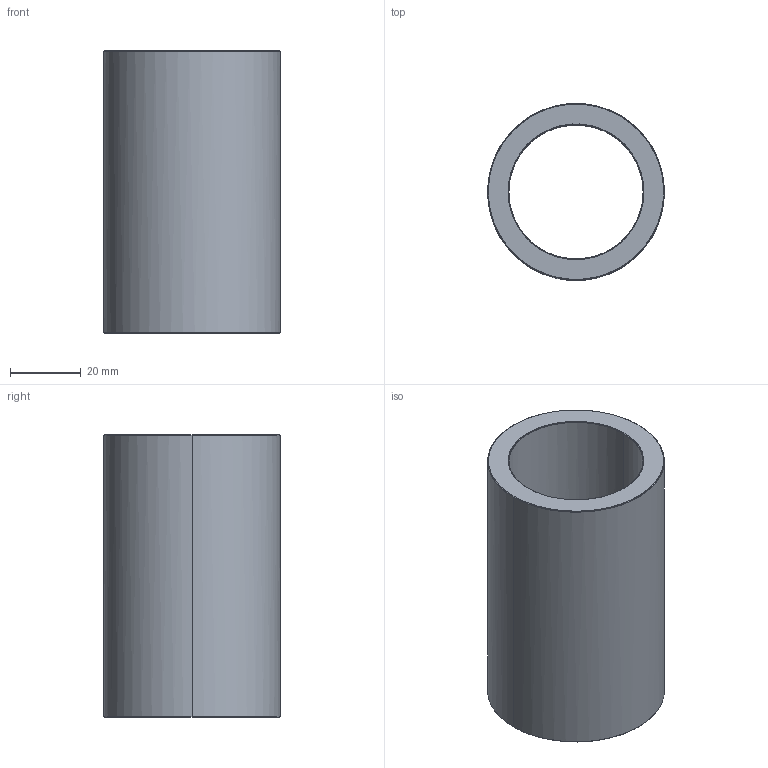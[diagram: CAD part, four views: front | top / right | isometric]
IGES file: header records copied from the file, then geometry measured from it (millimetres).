
Start section: Write IGES format                                    datakit 2008 (c)
Global section: file name: Unknown; native system: DATAKIT Converter; preprocessor: Unknown; author: Unknown; organization: Unknown; date: 950613.180003; units: millimetre
Bounding box: 50 x 49.98 x 80 mm (x, y, z)
Surface area: 23710.8 mm2 (no closed solid volume)
Topology: 0 solids, 0 shells, 14 faces, 56 edges, 56 vertices
Faces by surface type: revolution 12, bspline 2
